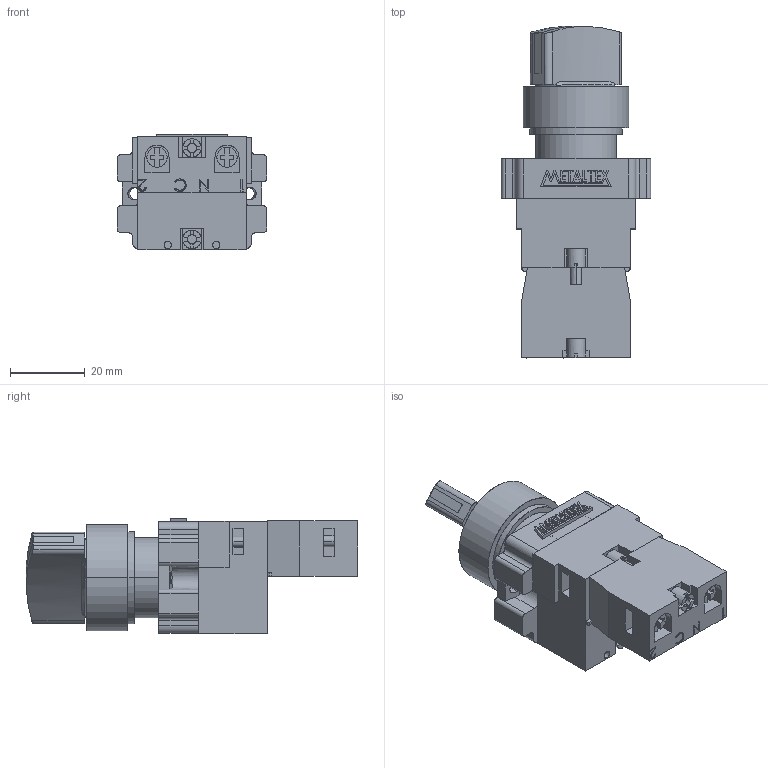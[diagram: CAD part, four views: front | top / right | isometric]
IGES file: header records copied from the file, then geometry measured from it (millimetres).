
Start section: SolidWorks IGES file using analytic representation for surfaces
Global section: file name: D:\X - Arquivos\PROEX\Empresas\P11 - METALTEX\01 - Produtos\IGES\Primeira remessa\M20ICR2-R-1A.IGS; native system: SolidWorks 2012; preprocessor: SolidWorks 2012; author: Usuario; date: 180117.114948; units: millimetre
Bounding box: 40 x 88.96 x 31.02 mm (x, y, z)
Surface area: 17585.2 mm2 (no closed solid volume)
Topology: 0 solids, 0 shells, 525 faces, 5999 edges, 5999 vertices
Faces by surface type: bspline 404, revolution 121
